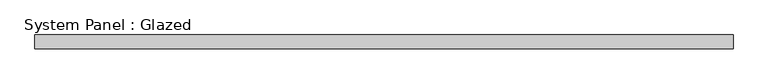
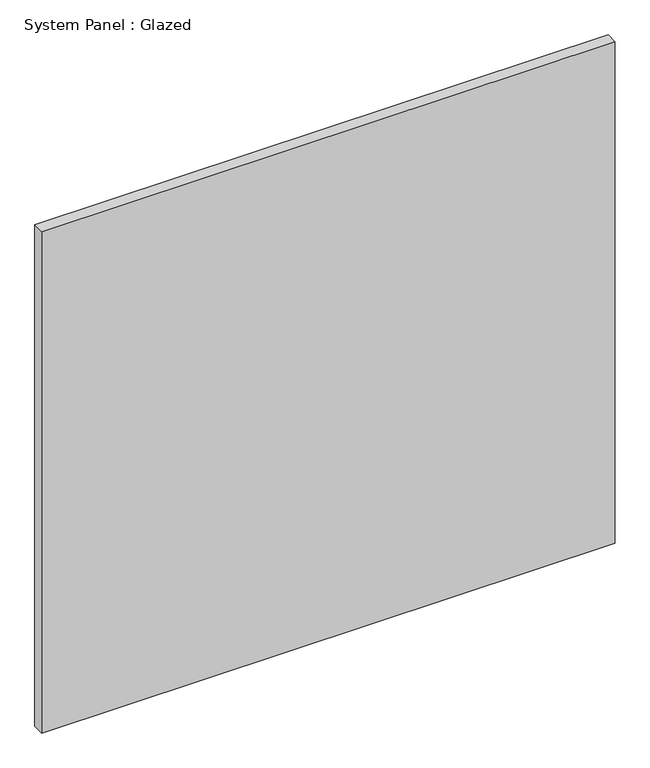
"""IFC4 building model written with IfcOpenShell, lengths in millimetres: plate geometry, System Panel : Glazed."""

from ifc_helpers import new_model, si_unit, origin, origin_with_axes, place, context, project, spatial, polyline, outline, extrude, source, transform, mapped, element, save


def system_panel_glazed_83790490(model_context):
    return source(origin(), model_context, "Body", "SweptSolid", [
        extrude(outline(polyline([(622.3125, -49.5), (-622.3125, -49.5), (-622.3125, -24.5), (622.3125, -24.5), (622.3125, -49.5)])), origin_with_axes(), (0.0, 0.0, 1.0), 1150.0),
    ])


if __name__ == "__main__":
    model = new_model("IFC4")
    model_context = context("Model", 3, world=origin())
    ifc_project = project(units=[si_unit("LENGTHUNIT", "METRE", prefix="MILLI")], contexts=[model_context])
    site = spatial("IfcSite", under=ifc_project)
    building = spatial("IfcBuilding", under=site)
    placement = place(None, origin())
    system_panel_glazed_shape = system_panel_glazed_83790490(model_context)
    element("IfcPlate", 1, ObjectType="System Panel : Glazed", at=placement, inside=building, context=model_context, shape_type="MappedRepresentation", body=[
        mapped(system_panel_glazed_shape, transform((0.0, 0.0, 0.0), x_axis=(1.0, 0.0, 0.0), y_axis=(0.0, 1.0, 0.0), z_axis=(0.0, 0.0, 1.0))),
    ])
    save(model, "model.ifc")
